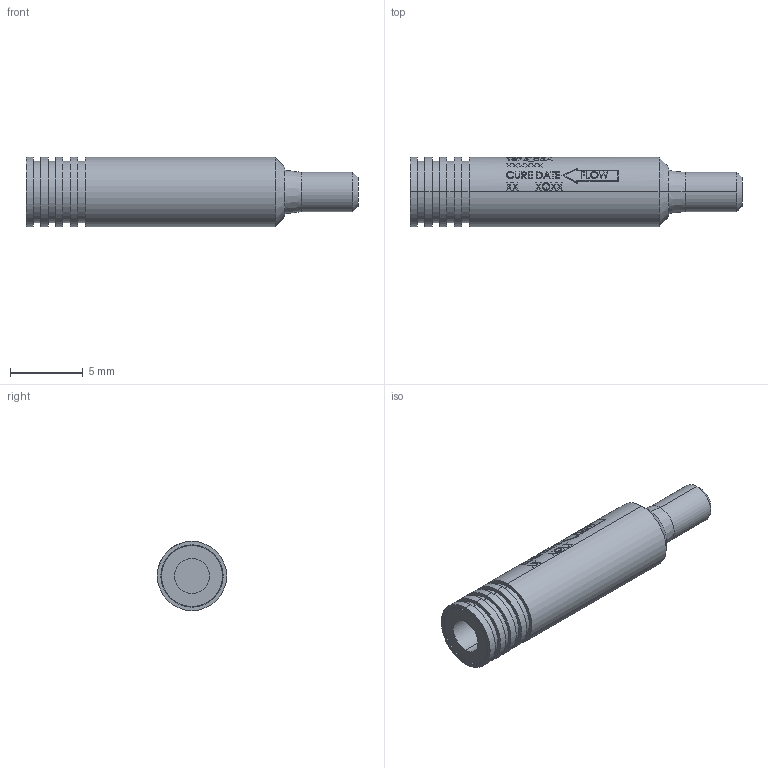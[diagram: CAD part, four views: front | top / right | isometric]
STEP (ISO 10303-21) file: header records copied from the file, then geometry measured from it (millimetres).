
FILE_DESCRIPTION (( 'STEP AP214' ), '1' );
FILE_NAME ('3DCSRA1875-05A.STEP', '2021-03-30T15:41:01', ( '' ), ( '' ), 'SwSTEP 2.0', 'SolidWorks 2019', '' );
FILE_SCHEMA (( 'AUTOMOTIVE_DESIGN' ));
Length unit declared in the file: inch
Products named in the file (1): 3DCSRA1875-05A
Bounding box: 22.86 x 4.76 x 4.76 mm (x, y, z)
Volume: 317 mm3; surface area: 400.7 mm2
Topology: 1 solids, 1 shells, 558 faces, 1471 edges, 978 vertices
Faces by surface type: bspline 259, plane 215, cylinder 76, cone 8
Entity records: 28149 total; most frequent: CARTESIAN_POINT 10042, ORIENTED_EDGE 2942, EDGE_CURVE 1471, DIRECTION 1394, VERTEX_POINT 978, B_SPLINE_CURVE_WITH_KNOTS 861, EDGE_LOOP 621, FACE_OUTER_BOUND 558
